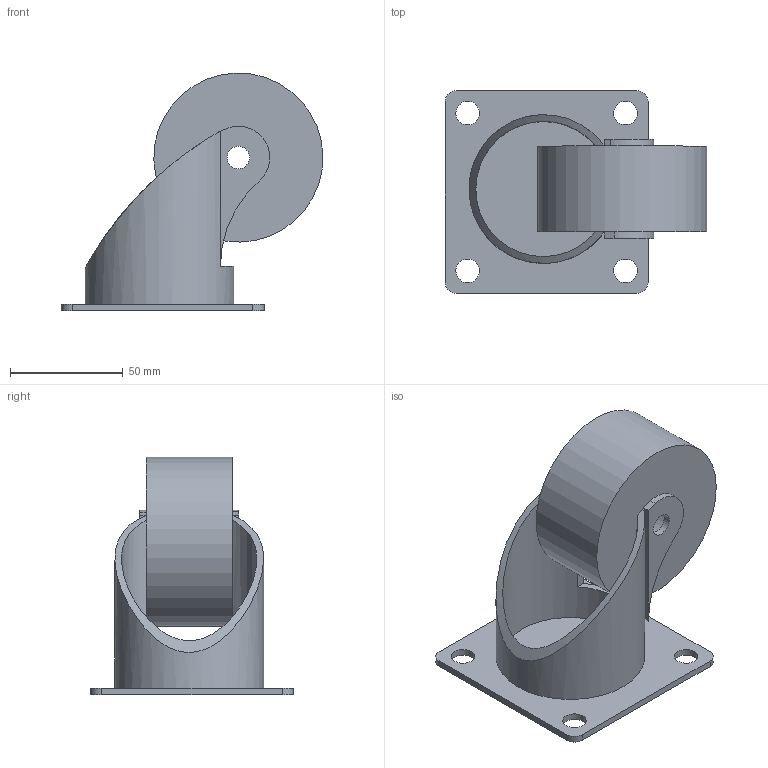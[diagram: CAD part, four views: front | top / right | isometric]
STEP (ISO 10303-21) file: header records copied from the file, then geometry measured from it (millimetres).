
FILE_DESCRIPTION((''),'2;1');
FILE_NAME('E:\catalogue and flyer\Profile catalogue 2015\Accessories- FM & wheel\foot mout & wheel stp file\ACC-JM75-HP.stp','2016-04-08T10:01:25',('h029'),(''),'Autodesk Inventor 11','Autodesk Inventor 11','');
FILE_SCHEMA(('AUTOMOTIVE_DESIGN { 1 0 10303 214 1 1 1 1 }'));
Length unit declared in the file: millimetre
Products named in the file (4): JMS75; plate; Part3; wheel
Assembly tree (3 placements, depth 2):
  JMS75
    plate
    Part3
    wheel
Bounding box: 116.1 x 90 x 105.49 mm (x, y, z)
Volume: 200077.2 mm3; surface area: 58071.2 mm2
Topology: 5 solids, 5 shells, 39 faces, 98 edges, 64 vertices
Faces by surface type: plane 20, cylinder 13, bspline 6
Full cylindrical faces by diameter (mm): 25 x1, 60 x1, 66 x1, 75 x1
Entity records: 1453 total; most frequent: CARTESIAN_POINT 476, DIRECTION 194, ORIENTED_EDGE 160, EDGE_CURVE 80, AXIS2_PLACEMENT_3D 78, EDGE_LOOP 64, VERTEX_POINT 56, FACE_OUTER_BOUND 39
